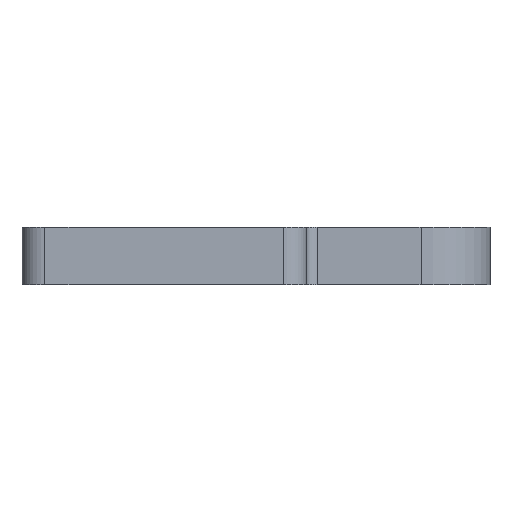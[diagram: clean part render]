
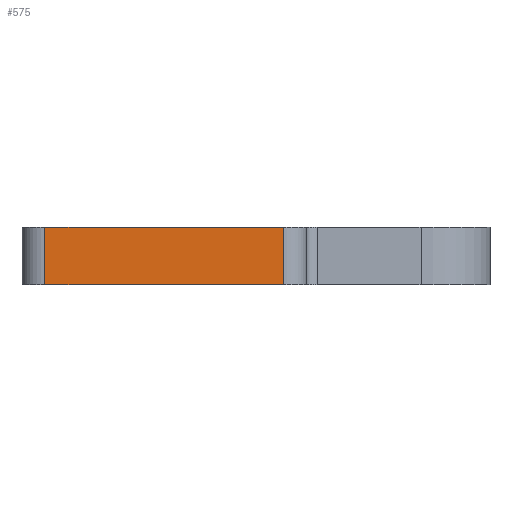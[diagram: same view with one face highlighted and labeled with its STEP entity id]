
A CAD part, left-side view. The second image highlights one B-rep face of the part: STEP entity #575.
In plain terms, the highlighted planar face has unit normal (-1, 0, 0).
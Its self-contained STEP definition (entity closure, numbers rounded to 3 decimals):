
#6 = VERTEX_POINT ( 'NONE', #311 ) ;
#61 = CARTESIAN_POINT ( 'NONE',  ( -16., 15.35, 2.5 ) ) ;
#130 = CARTESIAN_POINT ( 'NONE',  ( -16., -5.35, 5. ) ) ;
#151 = EDGE_CURVE ( 'NONE', #214, #1009, #888, .T. ) ;
#187 = LINE ( 'NONE', #61, #841 ) ;
#214 = VERTEX_POINT ( 'NONE', #444 ) ;
#241 = LINE ( 'NONE', #499, #921 ) ;
#250 = EDGE_CURVE ( 'NONE', #1009, #6, #965, .T. ) ;
#268 = DIRECTION ( 'NONE',  ( 0., 0., -1. ) ) ;
#306 = ORIENTED_EDGE ( 'NONE', *, *, #151, .T. ) ;
#311 = CARTESIAN_POINT ( 'NONE',  ( -16., 15.35, 5. ) ) ;
#323 = DIRECTION ( 'NONE',  ( 0., 0., 1. ) ) ;
#330 = AXIS2_PLACEMENT_3D ( 'NONE', #623, #624, #268 ) ;
#346 = FACE_OUTER_BOUND ( 'NONE', #1010, .T. ) ;
#369 = DIRECTION ( 'NONE',  ( 0., 1., 0. ) ) ;
#392 = CARTESIAN_POINT ( 'NONE',  ( -16., -5.35, 2.5 ) ) ;
#404 = EDGE_CURVE ( 'NONE', #6, #616, #187, .T. ) ;
#408 = VECTOR ( 'NONE', #323, 1000. ) ;
#444 = CARTESIAN_POINT ( 'NONE',  ( -16., -5.35, 0. ) ) ;
#492 = CARTESIAN_POINT ( 'NONE',  ( -16., -3.122, 5. ) ) ;
#499 = CARTESIAN_POINT ( 'NONE',  ( -16., -3.122, 0. ) ) ;
#509 = DIRECTION ( 'NONE',  ( 0., 1., 0. ) ) ;
#575 = ADVANCED_FACE ( 'NONE', ( #346 ), #634, .F. ) ;
#596 = ORIENTED_EDGE ( 'NONE', *, *, #802, .F. ) ;
#613 = DIRECTION ( 'NONE',  ( 0., 0., -1. ) ) ;
#616 = VERTEX_POINT ( 'NONE', #916 ) ;
#623 = CARTESIAN_POINT ( 'NONE',  ( -16., -5.35, 5. ) ) ;
#624 = DIRECTION ( 'NONE',  ( 1., 0., 0. ) ) ;
#634 = PLANE ( 'NONE',  #330 ) ;
#747 = VECTOR ( 'NONE', #509, 1000. ) ;
#790 = ORIENTED_EDGE ( 'NONE', *, *, #404, .T. ) ;
#802 = EDGE_CURVE ( 'NONE', #214, #616, #241, .T. ) ;
#841 = VECTOR ( 'NONE', #613, 1000. ) ;
#888 = LINE ( 'NONE', #392, #408 ) ;
#916 = CARTESIAN_POINT ( 'NONE',  ( -16., 15.35, 0. ) ) ;
#921 = VECTOR ( 'NONE', #369, 1000. ) ;
#965 = LINE ( 'NONE', #492, #747 ) ;
#1009 = VERTEX_POINT ( 'NONE', #130 ) ;
#1010 = EDGE_LOOP ( 'NONE', ( #1034, #790, #596, #306 ) ) ;
#1034 = ORIENTED_EDGE ( 'NONE', *, *, #250, .T. ) ;
